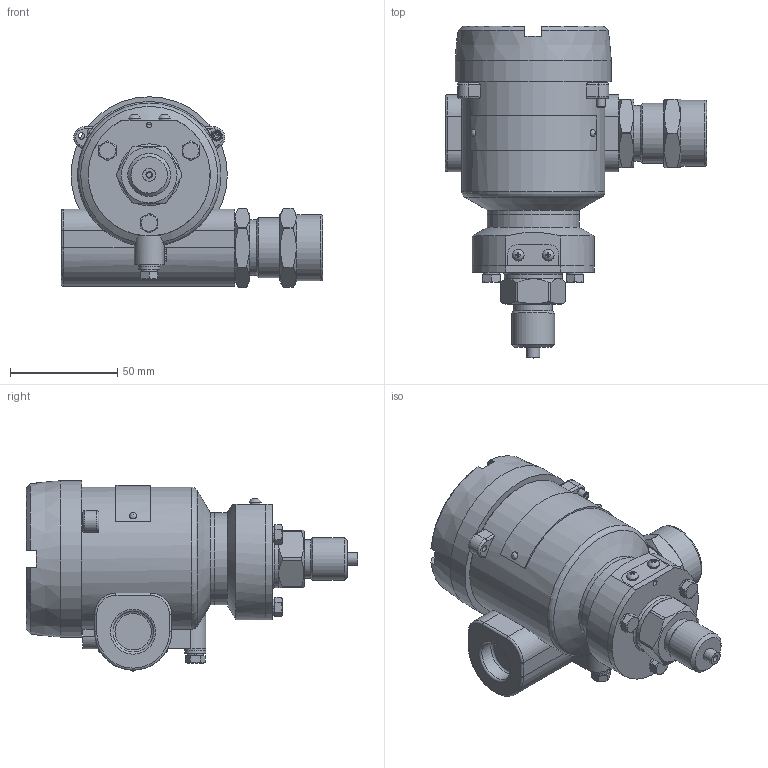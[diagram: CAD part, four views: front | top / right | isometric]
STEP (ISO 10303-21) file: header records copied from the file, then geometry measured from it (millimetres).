
FILE_DESCRIPTION(('STEP AP203'), '1');
FILE_NAME('Ïðåîáðàçîâàòåëü äàâëåíèÿ ÑÅÍÑ ÏÄ', '', ('UNSPECIFIED'), ('UNSPECIFIED'), 'C3D Converter', 'C3D Toolkit', '');
FILE_SCHEMA(('CONFIG_CONTROL_DESIGN'));
Length unit declared in the file: millimetre
Products named in the file (62): СЕНС.406233.002 СБ; СЕНС.301191.292; СЕНС.731142.045-01; СЕНС.723142.089-01; СЕНС.301536.040; СЕНС.713161.058-02; СЕНС.754177.041; СЕНС.711141.350; СЕНС.713161.059; РР.049.203.119-02; СЕНС.711322.031; СЕНС.723142.090; СЕНС.301193.077; СЕНС.713552.017; СЕНС.687281.234; СЕНС.753651.027; СЕНС.301413.005; СЕНС.711141.459; СЕНС.711141.530; СЕНС.741124.968; СЕНС.305121.006; СЕНС.711111.088; СЕНС.741124.971; СЕНС.301536.039; СЕНС.741314.005; Арт.32501.040.16.02; СЕНС.713561.034; СЕНС.754342.213-01; СЕНС.687281.230
Assembly tree (76 placements, depth 5):
  СЕНС.406233.002 СБ
    СЕНС.301191.292
      СЕНС.731142.045-01
      СЕНС.723142.089-01
      СЕНС.301536.040
        СЕНС.713161.058-02
        СЕНС.754177.041
        СЕНС.711141.350
        СЕНС.713161.059
        РР.049.203.119-02
        (unnamed)
      (unnamed)
      СЕНС.711322.031
      (unnamed)
      (unnamed)  x2
      (unnamed)
      (unnamed)
      (unnamed)
      (unnamed)
      СЕНС.723142.090
      СЕНС.301193.077
        СЕНС.713552.017
        СЕНС.687281.234
          (unnamed)
          (unnamed)
        СЕНС.753651.027
        (unnamed)
        (unnamed)
      (unnamed)
      СЕНС.301413.005
        СЕНС.711141.459
        (unnamed)  x2
      (unnamed)  x2
      (unnamed)  x2
      (unnamed)
      СЕНС.711141.530
      СЕНС.741124.968
      СЕНС.305121.006
        (unnamed)
        СЕНС.711111.088
      СЕНС.741124.971
    (unnamed)
    СЕНС.301536.039
      СЕНС.741314.005
      Арт.32501.040.16.02
    СЕНС.713561.034
    (unnamed)  x2
    (unnamed)  x2
    (unnamed)  x2
    (unnamed)
    (unnamed)
    СЕНС.754342.213-01
    (unnamed)
    (unnamed)
    (unnamed)  x2
    СЕНС.687281.230
      (unnamed)
      (unnamed)
        (unnamed)
        (unnamed)
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Bounding box: 122 x 155 x 88.95 mm (x, y, z)
Volume: 310305.5 mm3; surface area: 140825.1 mm2
Topology: 68 solids, 68 shells, 2880 faces, 7628 edges, 5036 vertices
Faces by surface type: plane 2039, cylinder 548, cone 181, bspline 52, torus 43, sphere 9, revolution 8
Full cylindrical faces by diameter (mm): 0.005 x1, 1.6 x1, 1.7 x2, 1.8 x1, 2 x7, 2.2 x2, 2.4 x1, 2.459 x2, 2.5 x3, 2.7 x1, 3 x7, 3.2 x1, 3.242 x2, 3.5 x6, 4 x7, 4.1 x1, 4.134 x4, 4.3 x2, 4.8 x2, 5 x4, 5.3 x2, 5.5 x6, 5.6 x2, 6 x4, 8 x7, 9 x2, 10 x4, 10.647 x1, 12 x5, 13 x1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
Entity records: 111478 total; most frequent: CARTESIAN_POINT 37503, ORIENTED_EDGE 13512, DIRECTION 13382, EDGE_CURVE 6756, LINE 5070, VECTOR 5070, VERTEX_POINT 4549, AXIS2_PLACEMENT_3D 4152
